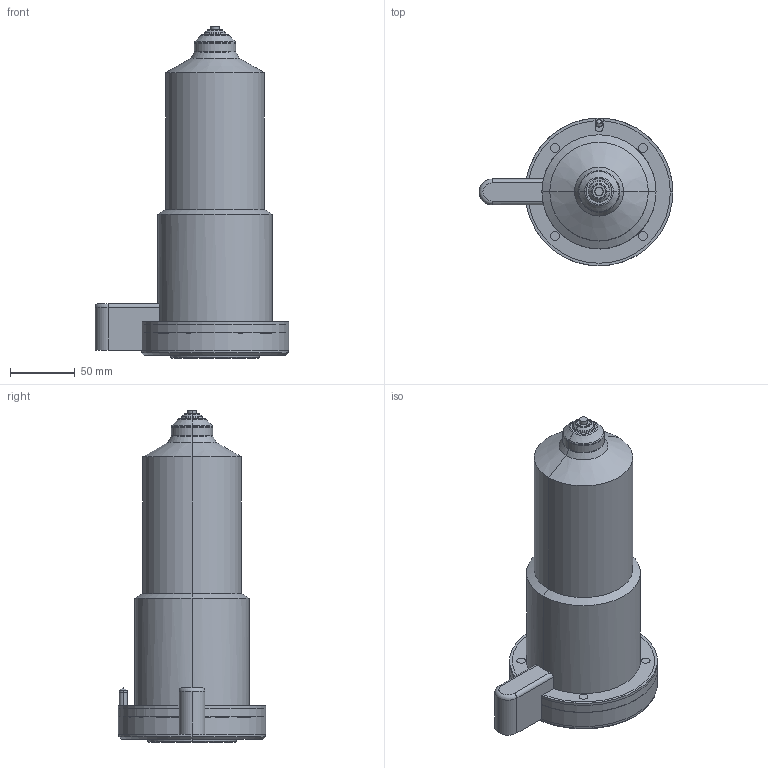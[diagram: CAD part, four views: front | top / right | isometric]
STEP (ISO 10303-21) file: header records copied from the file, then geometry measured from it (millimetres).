
FILE_DESCRIPTION (( 'STEP AP214' ), '1' );
FILE_NAME ('SR24_OPEN_250_HELICAL.STEP', '2009-08-21T14:32:33', ( 'Synventive Molding Solutions' ), ( 'Synventive Molding Solutions' ), 'SwSTEP 2.0', 'SolidWorks 2008', '' );
FILE_SCHEMA (( 'AUTOMOTIVE_DESIGN' ));
Length unit declared in the file: millimetre
Products named in the file (1): SR24_OPEN_250_HELICAL
Bounding box: 149.5 x 114 x 256 mm (x, y, z)
Volume: 2115837.7 mm3; surface area: 182821.5 mm2
Topology: 3 solids, 3 shells, 278 faces, 690 edges, 427 vertices
Faces by surface type: cylinder 124, plane 57, cone 42, torus 27, bspline 26, sphere 2
Entity records: 21139 total; most frequent: CARTESIAN_POINT 11727, ORIENTED_EDGE 1372, DIRECTION 1290, EDGE_CURVE 686, AXIS2_PLACEMENT_3D 521, VERTEX_POINT 427, EDGE_LOOP 305, UNCERTAINTY_MEASURE_WITH_UNIT 282
